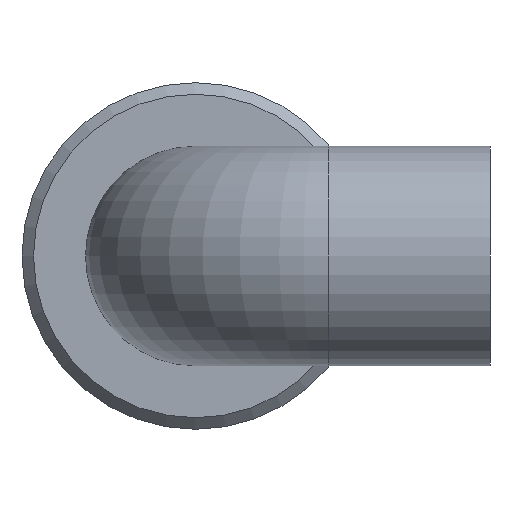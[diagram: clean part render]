
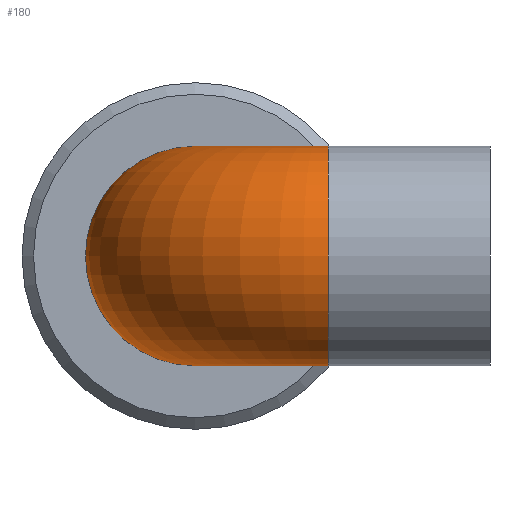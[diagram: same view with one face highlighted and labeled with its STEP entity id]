
A CAD part, left-side view. The second image highlights one B-rep face of the part: STEP entity #180.
In plain terms, the highlighted toroidal (fillet/blend) face has major radius 11.5 mm and minor radius 9.5 mm.
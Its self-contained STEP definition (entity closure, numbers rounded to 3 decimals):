
#180 = ADVANCED_FACE( '', ( #237, #238 ), #239, .T. );
#237 = FACE_OUTER_BOUND( '', #336, .T. );
#238 = FACE_OUTER_BOUND( '', #337, .T. );
#239 = TOROIDAL_SURFACE( '', #338, 11.5, 9.5 );
#336 = EDGE_LOOP( '', ( #456 ) );
#337 = EDGE_LOOP( '', ( #457 ) );
#338 = AXIS2_PLACEMENT_3D( '', #458, #459, #460 );
#456 = ORIENTED_EDGE( '', *, *, #568, .F. );
#457 = ORIENTED_EDGE( '', *, *, #578, .F. );
#458 = CARTESIAN_POINT( '', ( -11., -11.5, 0. ) );
#459 = DIRECTION( '', ( 0., 0., 1. ) );
#460 = DIRECTION( '', ( 1., 0., 0. ) );
#568 = EDGE_CURVE( '', #604, #604, #605, .T. );
#578 = EDGE_CURVE( '', #624, #624, #625, .T. );
#604 = VERTEX_POINT( '', #668 );
#605 = CIRCLE( '', #669, 9.5 );
#624 = VERTEX_POINT( '', #688 );
#625 = CIRCLE( '', #689, 9.5 );
#668 = CARTESIAN_POINT( '', ( -11., 0., -9.5 ) );
#669 = AXIS2_PLACEMENT_3D( '', #735, #736, #737 );
#688 = CARTESIAN_POINT( '', ( -32., -11.5, 0. ) );
#689 = AXIS2_PLACEMENT_3D( '', #765, #766, #767 );
#735 = CARTESIAN_POINT( '', ( -11., 0., 0. ) );
#736 = DIRECTION( '', ( 1., 0., 0. ) );
#737 = DIRECTION( '', ( 0., 0., -1. ) );
#765 = CARTESIAN_POINT( '', ( -22.5, -11.5, 0. ) );
#766 = DIRECTION( '', ( 0., -1., 0. ) );
#767 = DIRECTION( '', ( -1., 0., 0. ) );
